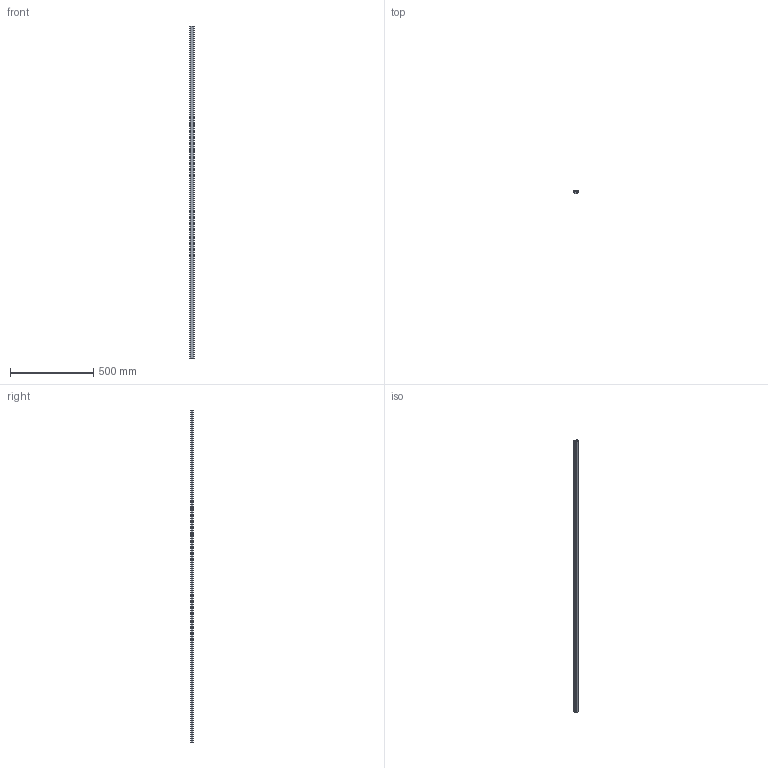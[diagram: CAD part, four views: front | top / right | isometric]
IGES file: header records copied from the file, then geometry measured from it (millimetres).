
Start section: SolidWorks IGES file using analytic representation for surfaces
Global section: file name: C:\Documents and Settings\ARGE\Desktop\yeni katalog tolgay düzenli\E kataloðu\ALPOLEN 1000 UCC ZÝNCÝR KIZAKLARI\207 UCC C25.IGS; native system: SolidWorks 2006 by SolidWorks Corporation; preprocessor: SolidWorks 2006 by SolidWorks Corporation; author: ARGE2; date: 060913.093338; units: millimetre
Bounding box: 25 x 18 x 2000 mm (x, y, z)
Surface area: 396752.9 mm2 (no closed solid volume)
Topology: 0 solids, 0 shells, 40 faces, 272 edges, 272 vertices
Faces by surface type: bspline 36, revolution 4
